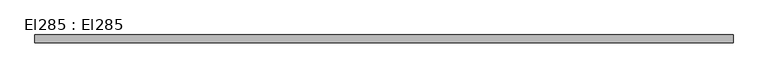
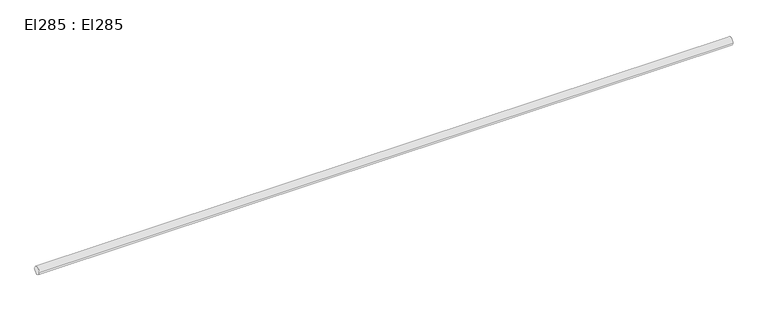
"""IFC4 building model written with IfcOpenShell, lengths in millimetres: cable carrier segment geometry, El285 : El285."""

from ifc_helpers import new_model, si_unit, point, frame, frame_2d, origin, place, context, project, spatial, circle_curve, trimmed, segment, composite_curve, outline, extrude, source, transform, mapped, element, save


def el285_el285_479ba97f(model_context):
    return source(origin(), model_context, "Body", "SweptSolid", [
        extrude(outline(composite_curve([segment(trimmed(circle_curve(frame_2d((14766.3, 2950.0)), 21.5), [point((14744.8, 2950.0))], [point((14787.8, 2950.0))], False, "CARTESIAN"), True, "CONTINUOUS"), segment(trimmed(circle_curve(frame_2d((14766.3, 2950.0)), 21.5), [point((14787.8, 2950.0))], [point((14744.8, 2950.0))], False, "CARTESIAN"), True, "CONTINUOUS")], self_intersect=False)), frame((4568.51, 0.0, 0.0), z_axis=(1.0, 0.0, 0.0), x_axis=(0.0, 1.0, 0.0)), (0.0, 0.0, 1.0), 3767.31),
    ])


if __name__ == "__main__":
    model = new_model("IFC4")
    model_context = context("Model", 3, world=origin())
    ifc_project = project(units=[si_unit("LENGTHUNIT", "METRE", prefix="MILLI")], contexts=[model_context])
    site = spatial("IfcSite", under=ifc_project)
    building = spatial("IfcBuilding", under=site)
    placement = place(None, origin())
    el285_el285_shape = el285_el285_479ba97f(model_context)
    element("IfcCableCarrierSegment", 1, ObjectType="El285 : El285", at=placement, inside=building, context=model_context, shape_type="MappedRepresentation", body=[
        mapped(el285_el285_shape, transform((0.0, 0.0, 0.0), x_axis=(1.0, 0.0, 0.0), y_axis=(0.0, 1.0, 0.0), z_axis=(0.0, 0.0, 1.0))),
    ])
    save(model, "model.ifc")
